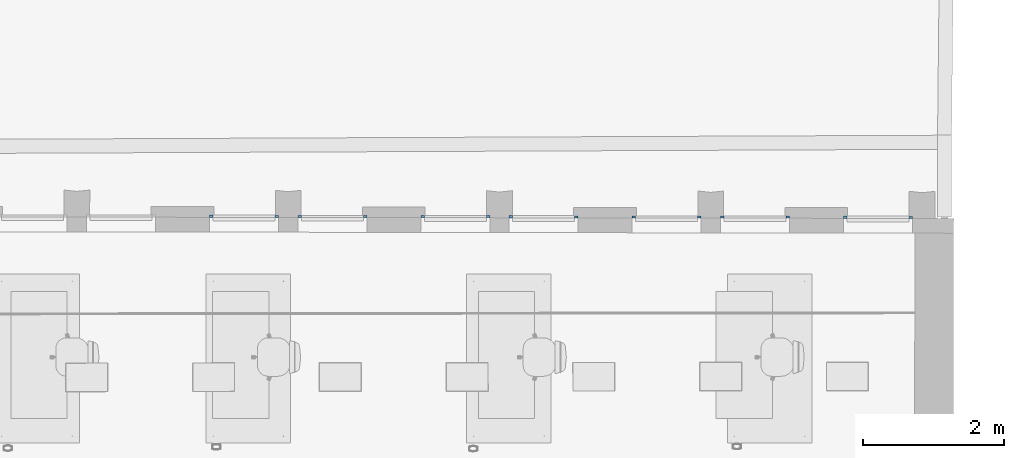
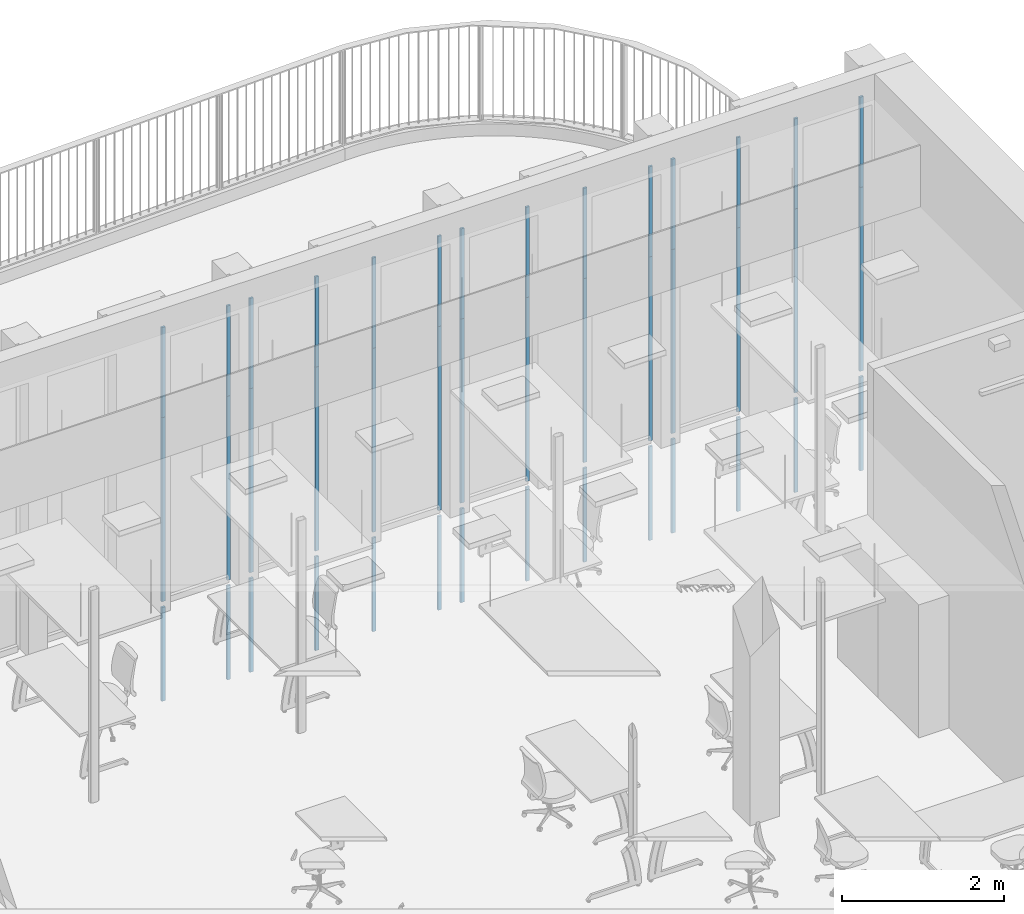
# One storey, part 13 of 128: 42 members, 14 elements without a shape of their own.
"""IFC2X3 building model written with IfcOpenShell, lengths in metres."""

import ifcopenshell
import ifcopenshell.guid

model = None  # the IFC model being written
_history = None  # IfcOwnerHistory: only IFC2X3 demands one
_inside = {}  # id of a spatial element -> (the spatial element, [elements in it])
_under = {}  # id of a project, library or spatial element -> (it, [spatial elements below it])
_declared = {}  # id of a project -> (the project, [libraries it declares])
_typed = {}  # id of a type object -> (the type object, [elements of that type])
_made_of = {}  # id of a material, layer set ... -> (it, [elements and type objects made of it])


def new_model(schema):
    """Start an empty IFC model of exactly this schema.

    Asked for "IFC4X3", IfcOpenShell would pick the latest addendum, in which some entities
    have other attributes; the version numbers below select the first issue.
    IFC2X3 requires an IfcOwnerHistory on every rooted entity: one is made here for all.
    """
    global model, _history
    if schema == "IFC4X3":
        model = ifcopenshell.file(schema_version=(4, 3, 0, 0))
    else:
        model = ifcopenshell.file(schema=schema)
    _inside.clear()
    _under.clear()
    _declared.clear()
    _typed.clear()
    _made_of.clear()
    _history = None
    if model.schema == "IFC2X3":
        org = make("IfcOrganization", Name="unknown")
        user = make(
            "IfcPersonAndOrganization",
            ThePerson=make("IfcPerson", FamilyName="unknown"),
            TheOrganization=org,
        )
        app = make(
            "IfcApplication",
            ApplicationDeveloper=org,
            Version="unknown",
            ApplicationFullName="unknown",
            ApplicationIdentifier="unknown",
        )
        _history = make(
            "IfcOwnerHistory",
            OwningUser=user,
            OwningApplication=app,
            ChangeAction="ADDED",
            CreationDate=0,
        )
    return model


def make(cls, **values):
    """One entity of the class cls with the attributes given. An attribute that is None is left unset."""
    return model.create_entity(
        cls, **{name: value for name, value in values.items() if value is not None}
    )


def entity(cls, *values):
    """Any entity or typed value of the class cls, its attributes in the order of the schema. None: left unset."""
    e = model.create_entity(cls)
    for i, value in enumerate(values):
        if value is not None:
            e[i] = value
    return e


def rooted(cls, **values):
    """An entity with a GlobalId (a new one), such as an element, a storey or a relation."""
    return make(cls, GlobalId=ifcopenshell.guid.new(), OwnerHistory=_history, **values)


def si_unit(unit_type, name, prefix=None):
    """IfcSIUnit, for example si_unit("LENGTHUNIT", "METRE", prefix="MILLI")."""
    return make("IfcSIUnit", UnitType=unit_type, Prefix=prefix, Name=name)


def converted_unit(unit_type, name, factor, base, dimensions=None, offset=None):
    """IfcConversionBasedUnit, such as the inch: factor (a typed value) times the base unit."""
    return make(
        "IfcConversionBasedUnit"
        if offset is None
        else "IfcConversionBasedUnitWithOffset",
        ConversionOffset=offset,
        Dimensions=None
        if dimensions is None
        else entity("IfcDimensionalExponents", *dimensions),
        UnitType=unit_type,
        Name=name,
        ConversionFactor=make(
            "IfcMeasureWithUnit", ValueComponent=factor, UnitComponent=base
        ),
    )


def derived_unit(unit_type, elements):
    """IfcDerivedUnit: a product of units, each with its exponent."""
    return make(
        "IfcDerivedUnit",
        Elements=[
            make("IfcDerivedUnitElement", Unit=unit, Exponent=power)
            for unit, power in elements
        ],
        UnitType=unit_type,
    )


def assignment(units):
    """IfcUnitAssignment: the units of a project."""
    return None if units is None else make("IfcUnitAssignment", Units=units)


def point(xyz):
    """IfcCartesianPoint."""
    return None if xyz is None else make("IfcCartesianPoint", Coordinates=xyz)


def direction(xyz):
    """IfcDirection."""
    return None if xyz is None else make("IfcDirection", DirectionRatios=xyz)


def frame(location, z_axis=None, x_axis=None):
    """IfcAxis2Placement3D, a coordinate frame: its origin and axes. An axis left out is left unset."""
    return make(
        "IfcAxis2Placement3D",
        Location=point(location),
        Axis=direction(z_axis),
        RefDirection=direction(x_axis),
    )


def frame_2d(location, x_axis=None):
    """IfcAxis2Placement2D, a coordinate frame in the plane: its origin and x axis."""
    return make(
        "IfcAxis2Placement2D", Location=point(location), RefDirection=direction(x_axis)
    )


def origin():
    """The frame at (0, 0, 0) with its axes left unset."""
    return frame((0.0, 0.0, 0.0))


def origin_2d_with_axis():
    """The frame at (0, 0) in the plane with the x axis (1, 0) written out."""
    return frame_2d((0.0, 0.0), x_axis=(1.0, 0.0))


def place(relative_to, where):
    """IfcLocalPlacement: puts the frame where relative to a parent placement (None: the world)."""
    return make(
        "IfcLocalPlacement", PlacementRelTo=relative_to, RelativePlacement=where
    )


def context(
    kind, dimensions, precision=None, world=None, true_north=None, identifier=None
):
    """IfcGeometricRepresentationContext, for example the 3D "Model" context."""
    return make(
        "IfcGeometricRepresentationContext",
        ContextIdentifier=identifier,
        ContextType=kind,
        CoordinateSpaceDimension=dimensions,
        Precision=precision,
        WorldCoordinateSystem=world,
        TrueNorth=true_north,
    )


def subcontext(parent, identifier, kind, view, scale=None):
    """IfcGeometricRepresentationSubContext, for example "Body" below "Model"."""
    return make(
        "IfcGeometricRepresentationSubContext",
        ContextIdentifier=identifier,
        ContextType=kind,
        ParentContext=parent,
        TargetScale=scale,
        TargetView=view,
    )


def project(units=None, contexts=None):
    """IfcProject with its units and contexts."""
    return rooted(
        "IfcProject",
        Name="project",
        RepresentationContexts=contexts,
        UnitsInContext=assignment(units),
    )


def spatial(cls, under=None, at=None, **own):
    """A site, building, storey or space (cls), placed at a placement, below another one or the project."""
    s = rooted(cls, ObjectPlacement=at, **own)
    if under is not None:
        _under.setdefault(under.id(), (under, []))[1].append(s)
    return s


def profile(cls, at=None, kind="AREA", **sizes):
    """A parametric profile (cls). Its sizes go by their IFC names, for example OverallWidth=200.0."""
    return make(cls, ProfileType=kind, Position=at, **sizes)


def rectangle(**sizes):
    """IfcRectangleProfileDef."""
    return profile("IfcRectangleProfileDef", **sizes)


def extrude(swept, where, along, depth):
    """IfcExtrudedAreaSolid: the profile swept, set in the frame where, extruded along a direction by depth."""
    return make(
        "IfcExtrudedAreaSolid",
        SweptArea=swept,
        Position=where,
        ExtrudedDirection=direction(along),
        Depth=depth,
    )


def shape(context_of_items, identifier, shape_type, items):
    """IfcShapeRepresentation: the items that make up one representation, for example the "Body"."""
    return make(
        "IfcShapeRepresentation",
        ContextOfItems=context_of_items,
        RepresentationIdentifier=identifier,
        RepresentationType=shape_type,
        Items=items,
    )


def source(mapping_origin, context_of_items, identifier, shape_type, items):
    """IfcRepresentationMap: a shape defined once, which mapped items show again and again."""
    return make(
        "IfcRepresentationMap",
        MappingOrigin=mapping_origin,
        MappedRepresentation=shape(context_of_items, identifier, shape_type, items),
    )


def transform(
    local_origin,
    x_axis=None,
    y_axis=None,
    z_axis=None,
    scale=None,
    scale2=None,
    scale3=None,
    uniform=True,
):
    """IfcCartesianTransformationOperator3D, or its non-uniform kind. x_axis, y_axis, z_axis: its Axis1, 2, 3."""
    if uniform:
        return make(
            "IfcCartesianTransformationOperator3D",
            Axis1=direction(x_axis),
            Axis2=direction(y_axis),
            LocalOrigin=point(local_origin),
            Scale=scale,
            Axis3=direction(z_axis),
        )
    return make(
        "IfcCartesianTransformationOperator3DnonUniform",
        Axis1=direction(x_axis),
        Axis2=direction(y_axis),
        LocalOrigin=point(local_origin),
        Scale=scale,
        Axis3=direction(z_axis),
        Scale2=scale2,
        Scale3=scale3,
    )


def mapped(mapping_source, mapping_target):
    """IfcMappedItem: shows the shape of a source again, moved by a transform."""
    return make(
        "IfcMappedItem", MappingSource=mapping_source, MappingTarget=mapping_target
    )


def material(Name=None, Category=None):
    """IfcMaterial."""
    return make("IfcMaterial", Name=Name, Category=Category)


def made_of(thing, what):
    """Note that an element or type object is made of a material, layer set ...; save() writes the relation."""
    if what is not None:
        _made_of.setdefault(what.id(), (what, []))[1].append(thing)
    return thing


def type_object(cls, material=None, **own):
    """A type object (cls), such as IfcWallType, which elements share."""
    return made_of(rooted(cls, **own), material)


def type_shapes(of_type, sources):
    """Give a type object the sources (RepresentationMaps) that its elements show as mapped items."""
    of_type.RepresentationMaps = sources


def element(
    cls,
    number,
    at=None,
    inside=None,
    cuts=None,
    type_object=None,
    material=None,
    context=None,
    identifier="Body",
    shape_type=None,
    held_by="IfcProductDefinitionShape",
    body=None,
    shapes=None,
    **own,
):
    """One element of the class cls, such as IfcWall. Its Tag is "e" and its number.

    at: its placement. inside: the storey or other place that contains it. cuts: it is an
    opening in that element (IfcRelVoidsElement). A single representation is given by context,
    identifier, shape_type and body (its items); several are given by shapes. held_by: the class
    of the entity that holds the representations. save() writes the other relations.
    """
    e = rooted(cls, Tag="e%d" % number, ObjectPlacement=at, **own)
    if body is not None:
        shapes = [shape(context, identifier, shape_type, body)]
    if shapes is not None:
        e.Representation = make(held_by, Representations=shapes)
    if inside is not None:
        _inside.setdefault(inside.id(), (inside, []))[1].append(e)
    if cuts is not None:
        rooted(
            "IfcRelVoidsElement", RelatingBuildingElement=cuts, RelatedOpeningElement=e
        )
    if type_object is not None:
        _typed.setdefault(type_object.id(), (type_object, []))[1].append(e)
    return made_of(e, material)


def aggregate(whole, parts):
    """IfcRelAggregates: a whole, such as a stair, and the parts it consists of."""
    return rooted("IfcRelAggregates", RelatingObject=whole, RelatedObjects=parts)


def save(model, path):
    """Write the relations noted so far, then the file.

    IfcRelAggregates (storeys below a building ...), IfcRelContainedInSpatialStructure (elements
    in a storey), IfcRelDefinesByType, IfcRelAssociatesMaterial and IfcRelDeclares: one each for
    every whole, place, type object, material and project.
    """
    for whole, parts in _under.values():
        aggregate(whole, parts)
    for where, things in _inside.values():
        rooted(
            "IfcRelContainedInSpatialStructure",
            RelatedElements=things,
            RelatingStructure=where,
        )
    for kind, things in _typed.values():
        rooted("IfcRelDefinesByType", RelatedObjects=things, RelatingType=kind)
    for what, things in _made_of.values():
        rooted("IfcRelAssociatesMaterial", RelatedObjects=things, RelatingMaterial=what)
    for by, libraries in _declared.values():
        rooted("IfcRelDeclares", RelatingContext=by, RelatedDefinitions=libraries)
    model.write(path)


model = new_model("IFC2X3")

# Units and contexts
model_context = context("Model", 3, precision=1e-05, world=origin(), true_north=direction((6.123031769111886e-17, 1.0)))
body_context = subcontext(model_context, "Body", "Model", "MODEL_VIEW")
ifc_project = project(units=[si_unit("LENGTHUNIT", "METRE"), si_unit("AREAUNIT", "SQUARE_METRE"), converted_unit("PLANEANGLEUNIT", "DEGREE", entity("IfcPlaneAngleMeasure", 0.017453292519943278), si_unit("PLANEANGLEUNIT", "RADIAN"), dimensions=[0, 0, 0, 0, 0, 0, 0]), derived_unit("THERMALTRANSMITTANCEUNIT", [(si_unit("MASSUNIT", "GRAM", prefix="KILO"), 1), (si_unit("THERMODYNAMICTEMPERATUREUNIT", "KELVIN"), -1), (si_unit("TIMEUNIT", "SECOND"), -3)])], contexts=[model_context])

# Site, building, storey
site_placement = place(None, origin())
site = spatial("IfcSite", under=ifc_project, at=site_placement, Name="Default", CompositionType="ELEMENT")
building_placement = place(site_placement, origin())
building = spatial("IfcBuilding", under=site, at=building_placement, CompositionType="ELEMENT")
storey_placement = place(building_placement, origin())
storey = spatial("IfcBuildingStorey", under=building, at=storey_placement, Name="00_RDC CAF", CompositionType="ELEMENT", Elevation=2.4982504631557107e-13)

# Curtain wall, member
curtain_wall_type_1 = type_object("IfcCurtainWallType", Name="Mur-rideau:FRi.Ext.30mm RDC", PredefinedType="NOTDEFINED")
curtain_wall_1_placement = place(storey_placement, origin())
curtain_wall_1 = element("IfcCurtainWall", 1, at=curtain_wall_1_placement, inside=storey, type_object=curtain_wall_type_1, Name="Mur-rideau:FRi.Ext.30mm RDC", ObjectType="Mur-rideau:FRi.Ext.30mm RDC")
ifc_material = material(Name="ARC - M.Ex - Blanc")
member_type_1 = type_object("IfcMemberType", Name="Meneau rectangulaire:F.Ri.M_Ext_Rectangulaire_50x30mm", PredefinedType="MULLION", material=ifc_material)
shared_shape_1 = source(origin(), body_context, "Body", "SweptSolid", [
    extrude(rectangle(XDim=0.05, YDim=0.03, at=origin_2d_with_axis()), frame((-0.025, 0.0, -2.7689999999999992), z_axis=(0.0, 0.0, 1.0), x_axis=(-1.0, 0.0, 0.0)), (0.0, 0.0, 1.0), 2.7689999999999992),
])
type_shapes(member_type_1, [shared_shape_1])
member_1_placement = place(curtain_wall_1_placement, frame((39.612351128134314, 144.1318756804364, 0.0), z_axis=(0.0, 0.0, -1.0), x_axis=(1.0, 0.0, 0.0)))
member_1 = element("IfcMember", 2, at=member_1_placement, type_object=member_type_1, material=ifc_material, Name="Meneau rectangulaire:F.Ri.M_Ext_Rectangulaire_50x30mm", ObjectType="Meneau rectangulaire:F.Ri.M_Ext_Rectangulaire_50x30mm", context=body_context, shape_type="MappedRepresentation", body=[
    mapped(shared_shape_1, transform((0.0, 0.0, 0.0), scale=1.0)),
])

curtain_wall_2_placement = place(storey_placement, origin())
curtain_wall_2 = element("IfcCurtainWall", 3, at=curtain_wall_2_placement, inside=storey, type_object=curtain_wall_type_1, Name="Mur-rideau:FRi.Ext.30mm RDC", ObjectType="Mur-rideau:FRi.Ext.30mm RDC")
member_2_placement = place(curtain_wall_2_placement, frame((40.865972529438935, 144.12990411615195, 0.0), z_axis=(0.0, 0.0, -1.0), x_axis=(1.0, 0.0, 0.0)))
member_2 = element("IfcMember", 4, at=member_2_placement, type_object=member_type_1, material=ifc_material, Name="Meneau rectangulaire:F.Ri.M_Ext_Rectangulaire_50x30mm", ObjectType="Meneau rectangulaire:F.Ri.M_Ext_Rectangulaire_50x30mm", context=body_context, shape_type="MappedRepresentation", body=[
    mapped(shared_shape_1, transform((0.0, 0.0, 0.0), scale=1.0)),
])

curtain_wall_3_placement = place(storey_placement, origin())
curtain_wall_3 = element("IfcCurtainWall", 5, at=curtain_wall_3_placement, inside=storey, type_object=curtain_wall_type_1, Name="Mur-rideau:FRi.Ext.30mm RDC", ObjectType="Mur-rideau:FRi.Ext.30mm RDC")
member_3_placement = place(curtain_wall_3_placement, frame((42.612344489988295, 144.1271576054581, 0.0), z_axis=(0.0, 0.0, -1.0), x_axis=(1.0, 0.0, 0.0)))
member_3 = element("IfcMember", 6, at=member_3_placement, type_object=member_type_1, material=ifc_material, Name="Meneau rectangulaire:F.Ri.M_Ext_Rectangulaire_50x30mm", ObjectType="Meneau rectangulaire:F.Ri.M_Ext_Rectangulaire_50x30mm", context=body_context, shape_type="MappedRepresentation", body=[
    mapped(shared_shape_1, transform((0.0, 0.0, 0.0), scale=1.0)),
])

curtain_wall_4_placement = place(storey_placement, origin())
curtain_wall_4 = element("IfcCurtainWall", 7, at=curtain_wall_4_placement, inside=storey, type_object=curtain_wall_type_1, Name="Mur-rideau:FRi.Ext.30mm RDC", ObjectType="Mur-rideau:FRi.Ext.30mm RDC")
member_4_placement = place(curtain_wall_4_placement, frame((43.865965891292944, 144.12518604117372, 0.0), z_axis=(0.0, 0.0, -1.0), x_axis=(1.0, 0.0, 0.0)))
member_4 = element("IfcMember", 8, at=member_4_placement, type_object=member_type_1, material=ifc_material, Name="Meneau rectangulaire:F.Ri.M_Ext_Rectangulaire_50x30mm", ObjectType="Meneau rectangulaire:F.Ri.M_Ext_Rectangulaire_50x30mm", context=body_context, shape_type="MappedRepresentation", body=[
    mapped(shared_shape_1, transform((0.0, 0.0, 0.0), scale=1.0)),
])

curtain_wall_5_placement = place(storey_placement, origin())
curtain_wall_5 = element("IfcCurtainWall", 9, at=curtain_wall_5_placement, inside=storey, type_object=curtain_wall_type_1, Name="Mur-rideau:FRi.Ext.30mm RDC", ObjectType="Mur-rideau:FRi.Ext.30mm RDC")
member_5_placement = place(curtain_wall_5_placement, frame((45.61233785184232, 144.12243953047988, 0.0), z_axis=(0.0, 0.0, -1.0), x_axis=(1.0, 0.0, 0.0)))
member_5 = element("IfcMember", 10, at=member_5_placement, type_object=member_type_1, material=ifc_material, Name="Meneau rectangulaire:F.Ri.M_Ext_Rectangulaire_50x30mm", ObjectType="Meneau rectangulaire:F.Ri.M_Ext_Rectangulaire_50x30mm", context=body_context, shape_type="MappedRepresentation", body=[
    mapped(shared_shape_1, transform((0.0, 0.0, 0.0), scale=1.0)),
])

curtain_wall_6_placement = place(storey_placement, origin())
curtain_wall_6 = element("IfcCurtainWall", 11, at=curtain_wall_6_placement, inside=storey, type_object=curtain_wall_type_1, Name="Mur-rideau:FRi.Ext.30mm RDC", ObjectType="Mur-rideau:FRi.Ext.30mm RDC")
member_6_placement = place(curtain_wall_6_placement, frame((46.865959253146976, 144.1204679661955, 0.0), z_axis=(0.0, 0.0, -1.0), x_axis=(1.0, 0.0, 0.0)))
member_6 = element("IfcMember", 12, at=member_6_placement, type_object=member_type_1, material=ifc_material, Name="Meneau rectangulaire:F.Ri.M_Ext_Rectangulaire_50x30mm", ObjectType="Meneau rectangulaire:F.Ri.M_Ext_Rectangulaire_50x30mm", context=body_context, shape_type="MappedRepresentation", body=[
    mapped(shared_shape_1, transform((0.0, 0.0, 0.0), scale=1.0)),
])

curtain_wall_7_placement = place(storey_placement, origin())
curtain_wall_7 = element("IfcCurtainWall", 13, at=curtain_wall_7_placement, inside=storey, type_object=curtain_wall_type_1, Name="Mur-rideau:FRi.Ext.30mm RDC", ObjectType="Mur-rideau:FRi.Ext.30mm RDC")
member_7_placement = place(curtain_wall_7_placement, frame((48.61233121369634, 144.11772145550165, 0.0), z_axis=(0.0, 0.0, -1.0), x_axis=(1.0, 0.0, 0.0)))
member_7 = element("IfcMember", 14, at=member_7_placement, type_object=member_type_1, material=ifc_material, Name="Meneau rectangulaire:F.Ri.M_Ext_Rectangulaire_50x30mm", ObjectType="Meneau rectangulaire:F.Ri.M_Ext_Rectangulaire_50x30mm", context=body_context, shape_type="MappedRepresentation", body=[
    mapped(shared_shape_1, transform((0.0, 0.0, 0.0), scale=1.0)),
])

# Member
member_type_2 = type_object("IfcMemberType", Name="Meneau rectangulaire:F.Ri.M_Ext_Rectangulaire_50x30mm", PredefinedType="MULLION", material=ifc_material)
shared_shape_2 = source(origin(), body_context, "Body", "SweptSolid", [
    extrude(rectangle(XDim=0.05, YDim=0.03, at=origin_2d_with_axis()), frame((-0.025, 0.0, -1.3589999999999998), z_axis=(0.0, 0.0, 1.0), x_axis=(-1.0, 0.0, 0.0)), (0.0, 0.0, 1.0), 1.3589999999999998),
])
type_shapes(member_type_2, [shared_shape_2])
member_8_placement = place(curtain_wall_1_placement, frame((39.612351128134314, 144.1318756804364, 2.7689999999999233), z_axis=(0.0, 0.0, -1.0), x_axis=(1.0, 0.0, 0.0)))
member_8 = element("IfcMember", 15, at=member_8_placement, type_object=member_type_2, material=ifc_material, Name="Meneau rectangulaire:F.Ri.M_Ext_Rectangulaire_50x30mm", ObjectType="Meneau rectangulaire:F.Ri.M_Ext_Rectangulaire_50x30mm", context=body_context, shape_type="MappedRepresentation", body=[
    mapped(shared_shape_2, transform((0.0, 0.0, 0.0), scale=1.0)),
])

member_9_placement = place(curtain_wall_2_placement, frame((40.865972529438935, 144.12990411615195, 2.7689999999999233), z_axis=(0.0, 0.0, -1.0), x_axis=(1.0, 0.0, 0.0)))
member_9 = element("IfcMember", 16, at=member_9_placement, type_object=member_type_2, material=ifc_material, Name="Meneau rectangulaire:F.Ri.M_Ext_Rectangulaire_50x30mm", ObjectType="Meneau rectangulaire:F.Ri.M_Ext_Rectangulaire_50x30mm", context=body_context, shape_type="MappedRepresentation", body=[
    mapped(shared_shape_2, transform((0.0, 0.0, 0.0), scale=1.0)),
])

member_10_placement = place(curtain_wall_3_placement, frame((42.612344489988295, 144.1271576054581, 2.7689999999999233), z_axis=(0.0, 0.0, -1.0), x_axis=(1.0, 0.0, 0.0)))
member_10 = element("IfcMember", 17, at=member_10_placement, type_object=member_type_2, material=ifc_material, Name="Meneau rectangulaire:F.Ri.M_Ext_Rectangulaire_50x30mm", ObjectType="Meneau rectangulaire:F.Ri.M_Ext_Rectangulaire_50x30mm", context=body_context, shape_type="MappedRepresentation", body=[
    mapped(shared_shape_2, transform((0.0, 0.0, 0.0), scale=1.0)),
])

member_11_placement = place(curtain_wall_4_placement, frame((43.865965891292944, 144.12518604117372, 2.7689999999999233), z_axis=(0.0, 0.0, -1.0), x_axis=(1.0, 0.0, 0.0)))
member_11 = element("IfcMember", 18, at=member_11_placement, type_object=member_type_2, material=ifc_material, Name="Meneau rectangulaire:F.Ri.M_Ext_Rectangulaire_50x30mm", ObjectType="Meneau rectangulaire:F.Ri.M_Ext_Rectangulaire_50x30mm", context=body_context, shape_type="MappedRepresentation", body=[
    mapped(shared_shape_2, transform((0.0, 0.0, 0.0), scale=1.0)),
])

member_12_placement = place(curtain_wall_5_placement, frame((45.61233785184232, 144.12243953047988, 2.7689999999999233), z_axis=(0.0, 0.0, -1.0), x_axis=(1.0, 0.0, 0.0)))
member_12 = element("IfcMember", 19, at=member_12_placement, type_object=member_type_2, material=ifc_material, Name="Meneau rectangulaire:F.Ri.M_Ext_Rectangulaire_50x30mm", ObjectType="Meneau rectangulaire:F.Ri.M_Ext_Rectangulaire_50x30mm", context=body_context, shape_type="MappedRepresentation", body=[
    mapped(shared_shape_2, transform((0.0, 0.0, 0.0), scale=1.0)),
])

member_13_placement = place(curtain_wall_6_placement, frame((46.865959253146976, 144.1204679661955, 2.7689999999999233), z_axis=(0.0, 0.0, -1.0), x_axis=(1.0, 0.0, 0.0)))
member_13 = element("IfcMember", 20, at=member_13_placement, type_object=member_type_2, material=ifc_material, Name="Meneau rectangulaire:F.Ri.M_Ext_Rectangulaire_50x30mm", ObjectType="Meneau rectangulaire:F.Ri.M_Ext_Rectangulaire_50x30mm", context=body_context, shape_type="MappedRepresentation", body=[
    mapped(shared_shape_2, transform((0.0, 0.0, 0.0), scale=1.0)),
])

member_14_placement = place(curtain_wall_7_placement, frame((48.61233121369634, 144.11772145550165, 2.7689999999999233), z_axis=(0.0, 0.0, -1.0), x_axis=(1.0, 0.0, 0.0)))
member_14 = element("IfcMember", 21, at=member_14_placement, type_object=member_type_2, material=ifc_material, Name="Meneau rectangulaire:F.Ri.M_Ext_Rectangulaire_50x30mm", ObjectType="Meneau rectangulaire:F.Ri.M_Ext_Rectangulaire_50x30mm", context=body_context, shape_type="MappedRepresentation", body=[
    mapped(shared_shape_2, transform((0.0, 0.0, 0.0), scale=1.0)),
])

member_type_3 = type_object("IfcMemberType", Name="Meneau rectangulaire:F.Ri.M_Ext_Rectangulaire_50x30mm", PredefinedType="MULLION", material=ifc_material)
shared_shape_3 = source(origin(), body_context, "Body", "SweptSolid", [
    extrude(rectangle(XDim=0.05, YDim=0.03, at=origin_2d_with_axis()), frame((-0.025, 0.0, -1.3589999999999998), z_axis=(0.0, 0.0, 1.0), x_axis=(-1.0, 0.0, 0.0)), (0.0, 0.0, 1.0), 1.3589999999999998),
])
type_shapes(member_type_3, [shared_shape_3])
member_15_placement = place(curtain_wall_1_placement, frame((38.632352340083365, 144.13341691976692, 4.127999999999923), z_axis=(0.0, 0.0, 1.0), x_axis=(-1.0, 0.0, 0.0)))
member_15 = element("IfcMember", 22, at=member_15_placement, type_object=member_type_3, material=ifc_material, Name="Meneau rectangulaire:F.Ri.M_Ext_Rectangulaire_50x30mm", ObjectType="Meneau rectangulaire:F.Ri.M_Ext_Rectangulaire_50x30mm", context=body_context, shape_type="MappedRepresentation", body=[
    mapped(shared_shape_3, transform((0.0, 0.0, 0.0), scale=1.0)),
])

member_16_placement = place(curtain_wall_2_placement, frame((39.88597374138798, 144.13144535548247, 4.127999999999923), z_axis=(0.0, 0.0, 1.0), x_axis=(-1.0, 0.0, 0.0)))
member_16 = element("IfcMember", 23, at=member_16_placement, type_object=member_type_3, material=ifc_material, Name="Meneau rectangulaire:F.Ri.M_Ext_Rectangulaire_50x30mm", ObjectType="Meneau rectangulaire:F.Ri.M_Ext_Rectangulaire_50x30mm", context=body_context, shape_type="MappedRepresentation", body=[
    mapped(shared_shape_3, transform((0.0, 0.0, 0.0), scale=1.0)),
])

member_17_placement = place(curtain_wall_3_placement, frame((41.632345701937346, 144.12869884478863, 4.127999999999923), z_axis=(0.0, 0.0, 1.0), x_axis=(-1.0, 0.0, 0.0)))
member_17 = element("IfcMember", 24, at=member_17_placement, type_object=member_type_3, material=ifc_material, Name="Meneau rectangulaire:F.Ri.M_Ext_Rectangulaire_50x30mm", ObjectType="Meneau rectangulaire:F.Ri.M_Ext_Rectangulaire_50x30mm", context=body_context, shape_type="MappedRepresentation", body=[
    mapped(shared_shape_3, transform((0.0, 0.0, 0.0), scale=1.0)),
])

member_18_placement = place(curtain_wall_4_placement, frame((42.885967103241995, 144.12672728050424, 4.127999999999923), z_axis=(0.0, 0.0, 1.0), x_axis=(-1.0, 0.0, 0.0)))
member_18 = element("IfcMember", 25, at=member_18_placement, type_object=member_type_3, material=ifc_material, Name="Meneau rectangulaire:F.Ri.M_Ext_Rectangulaire_50x30mm", ObjectType="Meneau rectangulaire:F.Ri.M_Ext_Rectangulaire_50x30mm", context=body_context, shape_type="MappedRepresentation", body=[
    mapped(shared_shape_3, transform((0.0, 0.0, 0.0), scale=1.0)),
])

member_19_placement = place(curtain_wall_5_placement, frame((44.63233906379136, 144.1239807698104, 4.127999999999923), z_axis=(0.0, 0.0, 1.0), x_axis=(-1.0, 0.0, 0.0)))
member_19 = element("IfcMember", 26, at=member_19_placement, type_object=member_type_3, material=ifc_material, Name="Meneau rectangulaire:F.Ri.M_Ext_Rectangulaire_50x30mm", ObjectType="Meneau rectangulaire:F.Ri.M_Ext_Rectangulaire_50x30mm", context=body_context, shape_type="MappedRepresentation", body=[
    mapped(shared_shape_3, transform((0.0, 0.0, 0.0), scale=1.0)),
])

member_20_placement = place(curtain_wall_6_placement, frame((45.885960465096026, 144.122009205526, 4.127999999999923), z_axis=(0.0, 0.0, 1.0), x_axis=(-1.0, 0.0, 0.0)))
member_20 = element("IfcMember", 27, at=member_20_placement, type_object=member_type_3, material=ifc_material, Name="Meneau rectangulaire:F.Ri.M_Ext_Rectangulaire_50x30mm", ObjectType="Meneau rectangulaire:F.Ri.M_Ext_Rectangulaire_50x30mm", context=body_context, shape_type="MappedRepresentation", body=[
    mapped(shared_shape_3, transform((0.0, 0.0, 0.0), scale=1.0)),
])

member_21_placement = place(curtain_wall_7_placement, frame((47.63233242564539, 144.11926269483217, 4.127999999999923), z_axis=(0.0, 0.0, 1.0), x_axis=(-1.0, 0.0, 0.0)))
member_21 = element("IfcMember", 28, at=member_21_placement, type_object=member_type_3, material=ifc_material, Name="Meneau rectangulaire:F.Ri.M_Ext_Rectangulaire_50x30mm", ObjectType="Meneau rectangulaire:F.Ri.M_Ext_Rectangulaire_50x30mm", context=body_context, shape_type="MappedRepresentation", body=[
    mapped(shared_shape_3, transform((0.0, 0.0, 0.0), scale=1.0)),
])

member_type_4 = type_object("IfcMemberType", Name="Meneau rectangulaire:F.Ri.M_Ext_Rectangulaire_50x30mm", PredefinedType="MULLION", material=ifc_material)
shared_shape_4 = source(origin(), body_context, "Body", "SweptSolid", [
    extrude(rectangle(XDim=0.05, YDim=0.03, at=origin_2d_with_axis()), frame((-0.025, 0.0, -2.7689999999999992), z_axis=(0.0, 0.0, 1.0), x_axis=(-1.0, 0.0, 0.0)), (0.0, 0.0, 1.0), 2.7689999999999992),
])
type_shapes(member_type_4, [shared_shape_4])
member_22_placement = place(curtain_wall_1_placement, frame((38.632352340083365, 144.13341691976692, 2.7689999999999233), z_axis=(0.0, 0.0, 1.0), x_axis=(-1.0, 0.0, 0.0)))
member_22 = element("IfcMember", 29, at=member_22_placement, type_object=member_type_4, material=ifc_material, Name="Meneau rectangulaire:F.Ri.M_Ext_Rectangulaire_50x30mm", ObjectType="Meneau rectangulaire:F.Ri.M_Ext_Rectangulaire_50x30mm", context=body_context, shape_type="MappedRepresentation", body=[
    mapped(shared_shape_4, transform((0.0, 0.0, 0.0), scale=1.0)),
])

aggregate(curtain_wall_1, [member_1, member_8, member_15, member_22])

member_23_placement = place(curtain_wall_2_placement, frame((39.88597374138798, 144.13144535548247, 2.7689999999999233), z_axis=(0.0, 0.0, 1.0), x_axis=(-1.0, 0.0, 0.0)))
member_23 = element("IfcMember", 30, at=member_23_placement, type_object=member_type_4, material=ifc_material, Name="Meneau rectangulaire:F.Ri.M_Ext_Rectangulaire_50x30mm", ObjectType="Meneau rectangulaire:F.Ri.M_Ext_Rectangulaire_50x30mm", context=body_context, shape_type="MappedRepresentation", body=[
    mapped(shared_shape_4, transform((0.0, 0.0, 0.0), scale=1.0)),
])

aggregate(curtain_wall_2, [member_2, member_9, member_16, member_23])

member_24_placement = place(curtain_wall_3_placement, frame((41.632345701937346, 144.12869884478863, 2.7689999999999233), z_axis=(0.0, 0.0, 1.0), x_axis=(-1.0, 0.0, 0.0)))
member_24 = element("IfcMember", 31, at=member_24_placement, type_object=member_type_4, material=ifc_material, Name="Meneau rectangulaire:F.Ri.M_Ext_Rectangulaire_50x30mm", ObjectType="Meneau rectangulaire:F.Ri.M_Ext_Rectangulaire_50x30mm", context=body_context, shape_type="MappedRepresentation", body=[
    mapped(shared_shape_4, transform((0.0, 0.0, 0.0), scale=1.0)),
])

aggregate(curtain_wall_3, [member_3, member_10, member_17, member_24])

member_25_placement = place(curtain_wall_4_placement, frame((42.885967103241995, 144.12672728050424, 2.7689999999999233), z_axis=(0.0, 0.0, 1.0), x_axis=(-1.0, 0.0, 0.0)))
member_25 = element("IfcMember", 32, at=member_25_placement, type_object=member_type_4, material=ifc_material, Name="Meneau rectangulaire:F.Ri.M_Ext_Rectangulaire_50x30mm", ObjectType="Meneau rectangulaire:F.Ri.M_Ext_Rectangulaire_50x30mm", context=body_context, shape_type="MappedRepresentation", body=[
    mapped(shared_shape_4, transform((0.0, 0.0, 0.0), scale=1.0)),
])

aggregate(curtain_wall_4, [member_4, member_11, member_18, member_25])

member_26_placement = place(curtain_wall_5_placement, frame((44.63233906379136, 144.1239807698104, 2.7689999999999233), z_axis=(0.0, 0.0, 1.0), x_axis=(-1.0, 0.0, 0.0)))
member_26 = element("IfcMember", 33, at=member_26_placement, type_object=member_type_4, material=ifc_material, Name="Meneau rectangulaire:F.Ri.M_Ext_Rectangulaire_50x30mm", ObjectType="Meneau rectangulaire:F.Ri.M_Ext_Rectangulaire_50x30mm", context=body_context, shape_type="MappedRepresentation", body=[
    mapped(shared_shape_4, transform((0.0, 0.0, 0.0), scale=1.0)),
])

aggregate(curtain_wall_5, [member_5, member_12, member_19, member_26])

member_27_placement = place(curtain_wall_6_placement, frame((45.885960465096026, 144.122009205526, 2.7689999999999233), z_axis=(0.0, 0.0, 1.0), x_axis=(-1.0, 0.0, 0.0)))
member_27 = element("IfcMember", 34, at=member_27_placement, type_object=member_type_4, material=ifc_material, Name="Meneau rectangulaire:F.Ri.M_Ext_Rectangulaire_50x30mm", ObjectType="Meneau rectangulaire:F.Ri.M_Ext_Rectangulaire_50x30mm", context=body_context, shape_type="MappedRepresentation", body=[
    mapped(shared_shape_4, transform((0.0, 0.0, 0.0), scale=1.0)),
])

aggregate(curtain_wall_6, [member_6, member_13, member_20, member_27])

member_28_placement = place(curtain_wall_7_placement, frame((47.63233242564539, 144.11926269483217, 2.7689999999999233), z_axis=(0.0, 0.0, 1.0), x_axis=(-1.0, 0.0, 0.0)))
member_28 = element("IfcMember", 35, at=member_28_placement, type_object=member_type_4, material=ifc_material, Name="Meneau rectangulaire:F.Ri.M_Ext_Rectangulaire_50x30mm", ObjectType="Meneau rectangulaire:F.Ri.M_Ext_Rectangulaire_50x30mm", context=body_context, shape_type="MappedRepresentation", body=[
    mapped(shared_shape_4, transform((0.0, 0.0, 0.0), scale=1.0)),
])

aggregate(curtain_wall_7, [member_7, member_14, member_21, member_28])

# Curtain wall, member
curtain_wall_type_2 = type_object("IfcCurtainWallType", Name="Mur-rideau:FRi.Ext.30mm Etages", PredefinedType="NOTDEFINED")
curtain_wall_8_placement = place(storey_placement, origin())
curtain_wall_8 = element("IfcCurtainWall", 36, at=curtain_wall_8_placement, inside=storey, type_object=curtain_wall_type_2, Name="Mur-rideau:FRi.Ext.30mm Etages", ObjectType="Mur-rideau:FRi.Ext.30mm Etages")
member_type_5 = type_object("IfcMemberType", Name="Meneau rectangulaire:F.Ri.M_Ext_Rectangulaire_50x30mm", PredefinedType="MULLION", material=ifc_material)
shared_shape_5 = source(origin(), body_context, "Body", "SweptSolid", [
    extrude(rectangle(XDim=0.05, YDim=0.03, at=origin_2d_with_axis()), frame((-0.025, 0.0, -1.4129999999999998), z_axis=(0.0, 0.0, 1.0), x_axis=(-1.0, 0.0, 0.0)), (0.0, 0.0, 1.0), 1.4129999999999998),
])
type_shapes(member_type_5, [shared_shape_5])
member_29_placement = place(curtain_wall_8_placement, frame((40.86597252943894, 144.129904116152, -1.500000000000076), z_axis=(0.0, 0.0, -1.0), x_axis=(1.0, 0.0, 0.0)))
member_29 = element("IfcMember", 37, at=member_29_placement, type_object=member_type_5, material=ifc_material, Name="Meneau rectangulaire:F.Ri.M_Ext_Rectangulaire_50x30mm", ObjectType="Meneau rectangulaire:F.Ri.M_Ext_Rectangulaire_50x30mm", context=body_context, shape_type="MappedRepresentation", body=[
    mapped(shared_shape_5, transform((0.0, 0.0, 0.0), scale=1.0)),
])

curtain_wall_9_placement = place(storey_placement, origin())
curtain_wall_9 = element("IfcCurtainWall", 38, at=curtain_wall_9_placement, inside=storey, type_object=curtain_wall_type_2, Name="Mur-rideau:FRi.Ext.30mm Etages", ObjectType="Mur-rideau:FRi.Ext.30mm Etages")
member_30_placement = place(curtain_wall_9_placement, frame((43.865965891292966, 144.12518604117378, -1.500000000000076), z_axis=(0.0, 0.0, -1.0), x_axis=(1.0, 0.0, 0.0)))
member_30 = element("IfcMember", 39, at=member_30_placement, type_object=member_type_5, material=ifc_material, Name="Meneau rectangulaire:F.Ri.M_Ext_Rectangulaire_50x30mm", ObjectType="Meneau rectangulaire:F.Ri.M_Ext_Rectangulaire_50x30mm", context=body_context, shape_type="MappedRepresentation", body=[
    mapped(shared_shape_5, transform((0.0, 0.0, 0.0), scale=1.0)),
])

curtain_wall_10_placement = place(storey_placement, origin())
curtain_wall_10 = element("IfcCurtainWall", 40, at=curtain_wall_10_placement, inside=storey, type_object=curtain_wall_type_2, Name="Mur-rideau:FRi.Ext.30mm Etages", ObjectType="Mur-rideau:FRi.Ext.30mm Etages")
member_31_placement = place(curtain_wall_10_placement, frame((46.86595925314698, 144.12046796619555, -1.500000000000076), z_axis=(0.0, 0.0, -1.0), x_axis=(1.0, 0.0, 0.0)))
member_31 = element("IfcMember", 41, at=member_31_placement, type_object=member_type_5, material=ifc_material, Name="Meneau rectangulaire:F.Ri.M_Ext_Rectangulaire_50x30mm", ObjectType="Meneau rectangulaire:F.Ri.M_Ext_Rectangulaire_50x30mm", context=body_context, shape_type="MappedRepresentation", body=[
    mapped(shared_shape_5, transform((0.0, 0.0, 0.0), scale=1.0)),
])

# Member
member_type_6 = type_object("IfcMemberType", Name="Meneau rectangulaire:F.Ri.M_Ext_Rectangulaire_50x30mm", PredefinedType="MULLION", material=ifc_material)
shared_shape_6 = source(origin(), body_context, "Body", "SweptSolid", [
    extrude(rectangle(XDim=0.05, YDim=0.03, at=origin_2d_with_axis()), frame((-0.025, 0.0, -1.4129999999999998), z_axis=(0.0, 0.0, 1.0), x_axis=(-1.0, 0.0, 0.0)), (0.0, 0.0, 1.0), 1.4129999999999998),
])
type_shapes(member_type_6, [shared_shape_6])
member_32_placement = place(curtain_wall_8_placement, frame((39.88597374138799, 144.13144535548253, -0.087000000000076), z_axis=(0.0, 0.0, 1.0), x_axis=(-1.0, 0.0, 0.0)))
member_32 = element("IfcMember", 42, at=member_32_placement, type_object=member_type_6, material=ifc_material, Name="Meneau rectangulaire:F.Ri.M_Ext_Rectangulaire_50x30mm", ObjectType="Meneau rectangulaire:F.Ri.M_Ext_Rectangulaire_50x30mm", context=body_context, shape_type="MappedRepresentation", body=[
    mapped(shared_shape_6, transform((0.0, 0.0, 0.0), scale=1.0)),
])

aggregate(curtain_wall_8, [member_29, member_32])

member_33_placement = place(curtain_wall_9_placement, frame((42.88596710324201, 144.1267272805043, -0.087000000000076), z_axis=(0.0, 0.0, 1.0), x_axis=(-1.0, 0.0, 0.0)))
member_33 = element("IfcMember", 43, at=member_33_placement, type_object=member_type_6, material=ifc_material, Name="Meneau rectangulaire:F.Ri.M_Ext_Rectangulaire_50x30mm", ObjectType="Meneau rectangulaire:F.Ri.M_Ext_Rectangulaire_50x30mm", context=body_context, shape_type="MappedRepresentation", body=[
    mapped(shared_shape_6, transform((0.0, 0.0, 0.0), scale=1.0)),
])

aggregate(curtain_wall_9, [member_30, member_33])

member_34_placement = place(curtain_wall_10_placement, frame((45.88596046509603, 144.12200920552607, -0.087000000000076), z_axis=(0.0, 0.0, 1.0), x_axis=(-1.0, 0.0, 0.0)))
member_34 = element("IfcMember", 44, at=member_34_placement, type_object=member_type_6, material=ifc_material, Name="Meneau rectangulaire:F.Ri.M_Ext_Rectangulaire_50x30mm", ObjectType="Meneau rectangulaire:F.Ri.M_Ext_Rectangulaire_50x30mm", context=body_context, shape_type="MappedRepresentation", body=[
    mapped(shared_shape_6, transform((0.0, 0.0, 0.0), scale=1.0)),
])

aggregate(curtain_wall_10, [member_31, member_34])

# Curtain wall, member
curtain_wall_11_placement = place(storey_placement, origin())
curtain_wall_11 = element("IfcCurtainWall", 45, at=curtain_wall_11_placement, inside=storey, type_object=curtain_wall_type_2, Name="Mur-rideau:FRi.Ext.30mm Etages", ObjectType="Mur-rideau:FRi.Ext.30mm Etages")
member_type_7 = type_object("IfcMemberType", Name="Meneau rectangulaire:F.Ri.M_Ext_Rectangulaire_50x30mm", PredefinedType="MULLION", material=ifc_material)
shared_shape_7 = source(origin(), body_context, "Body", "SweptSolid", [
    extrude(rectangle(XDim=0.05, YDim=0.03, at=origin_2d_with_axis()), frame((-0.025, 0.0, -1.4129999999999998), z_axis=(0.0, 0.0, 1.0), x_axis=(-1.0, 0.0, 0.0)), (0.0, 0.0, 1.0), 1.4129999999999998),
])
type_shapes(member_type_7, [shared_shape_7])
member_35_placement = place(curtain_wall_11_placement, frame((38.6323264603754, 144.13341696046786, -1.500000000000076), z_axis=(0.0, 0.0, -1.0), x_axis=(-1.0, 0.0, 0.0)))
member_35 = element("IfcMember", 46, at=member_35_placement, type_object=member_type_7, material=ifc_material, Name="Meneau rectangulaire:F.Ri.M_Ext_Rectangulaire_50x30mm", ObjectType="Meneau rectangulaire:F.Ri.M_Ext_Rectangulaire_50x30mm", context=body_context, shape_type="MappedRepresentation", body=[
    mapped(shared_shape_7, transform((0.0, 0.0, 0.0), scale=1.0)),
])

curtain_wall_12_placement = place(storey_placement, origin())
curtain_wall_12 = element("IfcCurtainWall", 47, at=curtain_wall_12_placement, inside=storey, type_object=curtain_wall_type_2, Name="Mur-rideau:FRi.Ext.30mm Etages", ObjectType="Mur-rideau:FRi.Ext.30mm Etages")
member_36_placement = place(curtain_wall_12_placement, frame((41.632319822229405, 144.1286988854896, -1.500000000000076), z_axis=(0.0, 0.0, -1.0), x_axis=(-1.0, 0.0, 0.0)))
member_36 = element("IfcMember", 48, at=member_36_placement, type_object=member_type_7, material=ifc_material, Name="Meneau rectangulaire:F.Ri.M_Ext_Rectangulaire_50x30mm", ObjectType="Meneau rectangulaire:F.Ri.M_Ext_Rectangulaire_50x30mm", context=body_context, shape_type="MappedRepresentation", body=[
    mapped(shared_shape_7, transform((0.0, 0.0, 0.0), scale=1.0)),
])

curtain_wall_13_placement = place(storey_placement, origin())
curtain_wall_13 = element("IfcCurtainWall", 49, at=curtain_wall_13_placement, inside=storey, type_object=curtain_wall_type_2, Name="Mur-rideau:FRi.Ext.30mm Etages", ObjectType="Mur-rideau:FRi.Ext.30mm Etages")
member_37_placement = place(curtain_wall_13_placement, frame((44.63231318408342, 144.12398081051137, -1.500000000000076), z_axis=(0.0, 0.0, -1.0), x_axis=(-1.0, 0.0, 0.0)))
member_37 = element("IfcMember", 50, at=member_37_placement, type_object=member_type_7, material=ifc_material, Name="Meneau rectangulaire:F.Ri.M_Ext_Rectangulaire_50x30mm", ObjectType="Meneau rectangulaire:F.Ri.M_Ext_Rectangulaire_50x30mm", context=body_context, shape_type="MappedRepresentation", body=[
    mapped(shared_shape_7, transform((0.0, 0.0, 0.0), scale=1.0)),
])

curtain_wall_14_placement = place(storey_placement, origin())
curtain_wall_14 = element("IfcCurtainWall", 51, at=curtain_wall_14_placement, inside=storey, type_object=curtain_wall_type_2, Name="Mur-rideau:FRi.Ext.30mm Etages", ObjectType="Mur-rideau:FRi.Ext.30mm Etages")
member_38_placement = place(curtain_wall_14_placement, frame((47.632306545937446, 144.11926273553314, -1.500000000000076), z_axis=(0.0, 0.0, -1.0), x_axis=(-1.0, 0.0, 0.0)))
member_38 = element("IfcMember", 52, at=member_38_placement, type_object=member_type_7, material=ifc_material, Name="Meneau rectangulaire:F.Ri.M_Ext_Rectangulaire_50x30mm", ObjectType="Meneau rectangulaire:F.Ri.M_Ext_Rectangulaire_50x30mm", context=body_context, shape_type="MappedRepresentation", body=[
    mapped(shared_shape_7, transform((0.0, 0.0, 0.0), scale=1.0)),
])

# Member
member_type_8 = type_object("IfcMemberType", Name="Meneau rectangulaire:F.Ri.M_Ext_Rectangulaire_50x30mm", PredefinedType="MULLION", material=ifc_material)
shared_shape_8 = source(origin(), body_context, "Body", "SweptSolid", [
    extrude(rectangle(XDim=0.05, YDim=0.03, at=origin_2d_with_axis()), frame((-0.025, 0.0, -1.4129999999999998), z_axis=(0.0, 0.0, 1.0), x_axis=(-1.0, 0.0, 0.0)), (0.0, 0.0, 1.0), 1.4129999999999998),
])
type_shapes(member_type_8, [shared_shape_8])
member_39_placement = place(curtain_wall_11_placement, frame((39.61232524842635, 144.13187572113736, -0.087000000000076)))
member_39 = element("IfcMember", 53, at=member_39_placement, type_object=member_type_8, material=ifc_material, Name="Meneau rectangulaire:F.Ri.M_Ext_Rectangulaire_50x30mm", ObjectType="Meneau rectangulaire:F.Ri.M_Ext_Rectangulaire_50x30mm", context=body_context, shape_type="MappedRepresentation", body=[
    mapped(shared_shape_8, transform((0.0, 0.0, 0.0), scale=1.0)),
])

aggregate(curtain_wall_11, [member_35, member_39])

member_40_placement = place(curtain_wall_12_placement, frame((42.612318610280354, 144.12715764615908, -0.087000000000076)))
member_40 = element("IfcMember", 54, at=member_40_placement, type_object=member_type_8, material=ifc_material, Name="Meneau rectangulaire:F.Ri.M_Ext_Rectangulaire_50x30mm", ObjectType="Meneau rectangulaire:F.Ri.M_Ext_Rectangulaire_50x30mm", context=body_context, shape_type="MappedRepresentation", body=[
    mapped(shared_shape_8, transform((0.0, 0.0, 0.0), scale=1.0)),
])

aggregate(curtain_wall_12, [member_36, member_40])

member_41_placement = place(curtain_wall_13_placement, frame((45.61231197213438, 144.12243957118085, -0.087000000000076)))
member_41 = element("IfcMember", 55, at=member_41_placement, type_object=member_type_8, material=ifc_material, Name="Meneau rectangulaire:F.Ri.M_Ext_Rectangulaire_50x30mm", ObjectType="Meneau rectangulaire:F.Ri.M_Ext_Rectangulaire_50x30mm", context=body_context, shape_type="MappedRepresentation", body=[
    mapped(shared_shape_8, transform((0.0, 0.0, 0.0), scale=1.0)),
])

aggregate(curtain_wall_13, [member_37, member_41])

member_42_placement = place(curtain_wall_14_placement, frame((48.612305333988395, 144.11772149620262, -0.087000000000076)))
member_42 = element("IfcMember", 56, at=member_42_placement, type_object=member_type_8, material=ifc_material, Name="Meneau rectangulaire:F.Ri.M_Ext_Rectangulaire_50x30mm", ObjectType="Meneau rectangulaire:F.Ri.M_Ext_Rectangulaire_50x30mm", context=body_context, shape_type="MappedRepresentation", body=[
    mapped(shared_shape_8, transform((0.0, 0.0, 0.0), scale=1.0)),
])

aggregate(curtain_wall_14, [member_38, member_42])

save(model, "model.ifc")
